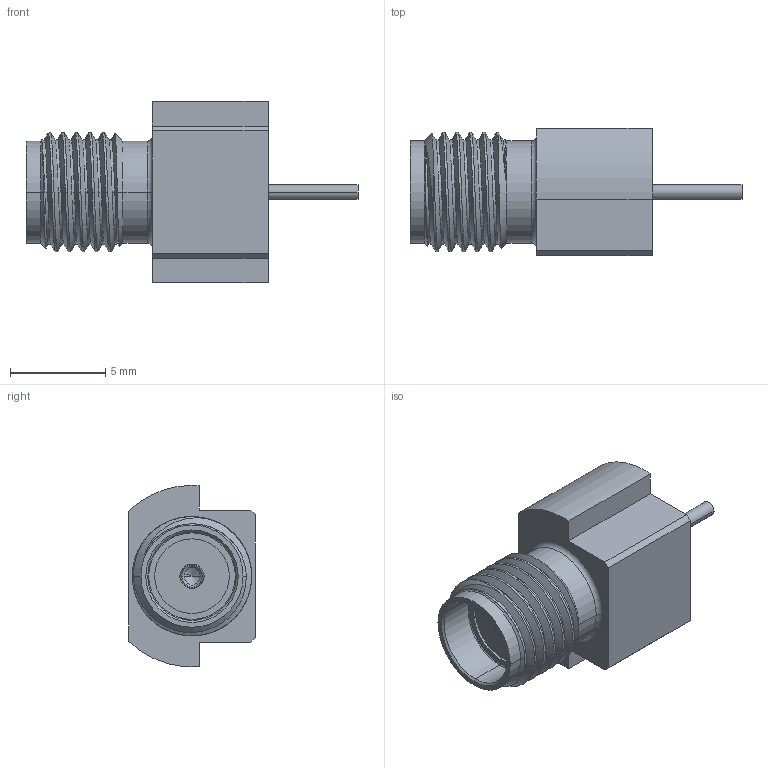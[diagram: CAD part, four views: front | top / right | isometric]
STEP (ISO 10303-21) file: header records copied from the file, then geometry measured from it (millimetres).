
FILE_DESCRIPTION((''),'2;1');
FILE_NAME('732511140','2018-08-21T',('akumar19'),(''),'PRO/ENGINEER BY PARAMETRIC TECHNOLOGY CORPORATION, 2012310','PRO/ENGINEER BY PARAMETRIC TECHNOLOGY CORPORATION, 2012310','');
FILE_SCHEMA(('CONFIG_CONTROL_DESIGN'));
Length unit declared in the file: millimetre
Products named in the file (1): 732511140
Bounding box: 17.41 x 6.65 x 9.51 mm (x, y, z)
Volume: 450.9 mm3; surface area: 525.5 mm2
Topology: 1 solids, 1 shells, 89 faces, 226 edges, 144 vertices
Faces by surface type: cylinder 48, plane 24, cone 11, torus 4, bspline 2
Entity records: 5278 total; most frequent: CARTESIAN_POINT 3175, ORIENTED_EDGE 448, DIRECTION 401, EDGE_CURVE 224, AXIS2_PLACEMENT_3D 155, VERTEX_POINT 144, EDGE_LOOP 96, VECTOR 91
